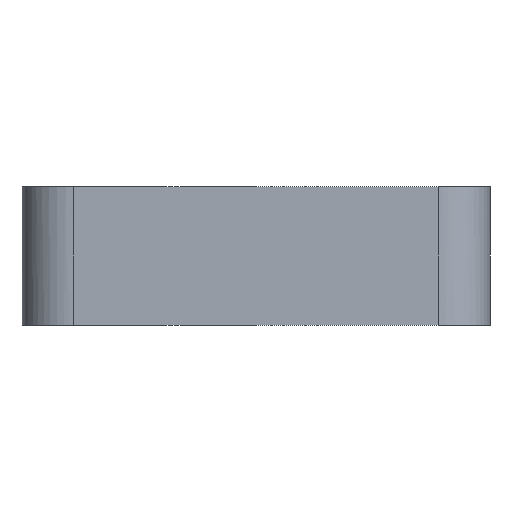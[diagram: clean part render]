
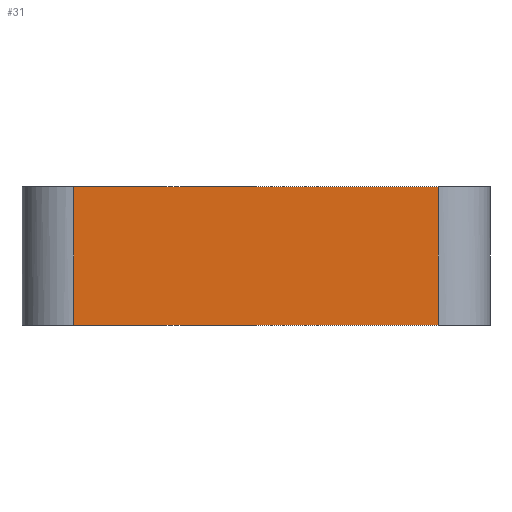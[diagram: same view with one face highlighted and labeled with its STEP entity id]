
A CAD part, left-side view. The second image highlights one B-rep face of the part: STEP entity #31.
In plain terms, the highlighted free-form (B-spline) face has degree [2, 1] with [3, 2] control points.
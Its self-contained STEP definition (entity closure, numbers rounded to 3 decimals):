
#31=ADVANCED_FACE('',(#41),#343,.T.);
#41=FACE_OUTER_BOUND('',#51,.T.);
#51=EDGE_LOOP('',(#82,#83,#84,#85));
#82=ORIENTED_EDGE('',*,*,#276,.T.);
#83=ORIENTED_EDGE('',*,*,#257,.F.);
#84=ORIENTED_EDGE('',*,*,#277,.T.);
#85=ORIENTED_EDGE('',*,*,#274,.F.);
#105=PCURVE('',#336,#153);
#127=PCURVE('',#342,#175);
#130=PCURVE('',#343,#178);
#131=PCURVE('',#343,#179);
#132=PCURVE('',#343,#180);
#133=PCURVE('',#343,#181);
#134=PCURVE('',#334,#182);
#149=PCURVE('',#335,#197);
#153=DEFINITIONAL_REPRESENTATION('',(#201),#617);
#175=DEFINITIONAL_REPRESENTATION('',(#223),#617);
#178=DEFINITIONAL_REPRESENTATION('',(#226),#617);
#179=DEFINITIONAL_REPRESENTATION('',(#227),#617);
#180=DEFINITIONAL_REPRESENTATION('',(#228),#617);
#181=DEFINITIONAL_REPRESENTATION('',(#229),#617);
#182=DEFINITIONAL_REPRESENTATION('',(#302),#617);
#197=DEFINITIONAL_REPRESENTATION('',(#317),#617);
#201=B_SPLINE_CURVE_WITH_KNOTS('',1,(#456,#457),.UNSPECIFIED.,.F.,.F.,(2,
2),(-16.,0.),.UNSPECIFIED.);
#223=B_SPLINE_CURVE_WITH_KNOTS('',1,(#545,#546),.UNSPECIFIED.,.F.,.F.,(2,
2),(0.,16.),.UNSPECIFIED.);
#226=B_SPLINE_CURVE_WITH_KNOTS('',1,(#557,#558),.UNSPECIFIED.,.F.,.F.,(2,
2),(229.699,271.699),.UNSPECIFIED.);
#227=B_SPLINE_CURVE_WITH_KNOTS('',1,(#559,#560),.UNSPECIFIED.,.F.,.F.,(2,
2),(-16.,0.),.UNSPECIFIED.);
#228=B_SPLINE_CURVE_WITH_KNOTS('',1,(#564,#565),.UNSPECIFIED.,.F.,.F.,(2,
2),(-271.699,-229.699),.UNSPECIFIED.);
#229=B_SPLINE_CURVE_WITH_KNOTS('',1,(#566,#567),.UNSPECIFIED.,.F.,.F.,(2,
2),(0.,16.),.UNSPECIFIED.);
#233=SURFACE_CURVE('',#281,(#105,#131),.PCURVE_S1.);
#250=SURFACE_CURVE('',#298,(#127,#133),.PCURVE_S1.);
#252=SURFACE_CURVE('',#300,(#130,#134),.PCURVE_S1.);
#253=SURFACE_CURVE('',#301,(#132,#149),.PCURVE_S1.);
#257=EDGE_CURVE('',#321,#318,#233,.T.);
#274=EDGE_CURVE('',#332,#333,#250,.T.);
#276=EDGE_CURVE('',#332,#318,#252,.T.);
#277=EDGE_CURVE('',#321,#333,#253,.T.);
#281=(
BOUNDED_CURVE()
B_SPLINE_CURVE(1,(#454,#455),.UNSPECIFIED.,.F.,.F.)
B_SPLINE_CURVE_WITH_KNOTS((2,2),(-16.,0.),.UNSPECIFIED.)
CURVE()
GEOMETRIC_REPRESENTATION_ITEM()
RATIONAL_B_SPLINE_CURVE((1.,1.))
REPRESENTATION_ITEM('')
);
#298=(
BOUNDED_CURVE()
B_SPLINE_CURVE(1,(#543,#544),.UNSPECIFIED.,.F.,.F.)
B_SPLINE_CURVE_WITH_KNOTS((2,2),(0.,16.),.UNSPECIFIED.)
CURVE()
GEOMETRIC_REPRESENTATION_ITEM()
RATIONAL_B_SPLINE_CURVE((1.,1.))
REPRESENTATION_ITEM('')
);
#300=(
BOUNDED_CURVE()
B_SPLINE_CURVE(2,(#554,#555,#556),.UNSPECIFIED.,.F.,.F.)
B_SPLINE_CURVE_WITH_KNOTS((3,3),(229.699,271.699),
 .UNSPECIFIED.)
CURVE()
GEOMETRIC_REPRESENTATION_ITEM()
RATIONAL_B_SPLINE_CURVE((1.,1.,1.))
REPRESENTATION_ITEM('')
);
#301=(
BOUNDED_CURVE()
B_SPLINE_CURVE(2,(#561,#562,#563),.UNSPECIFIED.,.F.,.F.)
B_SPLINE_CURVE_WITH_KNOTS((3,3),(-271.699,-229.699),
 .UNSPECIFIED.)
CURVE()
GEOMETRIC_REPRESENTATION_ITEM()
RATIONAL_B_SPLINE_CURVE((1.,1.,1.))
REPRESENTATION_ITEM('')
);
#302=(
BOUNDED_CURVE()
B_SPLINE_CURVE(2,(#568,#569,#570),.UNSPECIFIED.,.F.,.F.)
B_SPLINE_CURVE_WITH_KNOTS((3,3),(229.699,271.699),
 .UNSPECIFIED.)
CURVE()
GEOMETRIC_REPRESENTATION_ITEM()
RATIONAL_B_SPLINE_CURVE((1.,1.,1.))
REPRESENTATION_ITEM('')
);
#317=(
BOUNDED_CURVE()
B_SPLINE_CURVE(2,(#613,#614,#615),.UNSPECIFIED.,.F.,.F.)
B_SPLINE_CURVE_WITH_KNOTS((3,3),(-271.699,-229.699),
 .UNSPECIFIED.)
CURVE()
GEOMETRIC_REPRESENTATION_ITEM()
RATIONAL_B_SPLINE_CURVE((1.,1.,1.))
REPRESENTATION_ITEM('')
);
#318=VERTEX_POINT('',#424);
#321=VERTEX_POINT('',#427);
#332=VERTEX_POINT('',#438);
#333=VERTEX_POINT('',#439);
#334=PLANE('',#364);
#335=PLANE('',#365);
#336=(
BOUNDED_SURFACE()
B_SPLINE_SURFACE(2,1,((#374,#375),(#376,#377),(#378,#379)),.UNSPECIFIED.,
 .F.,.F.,.F.)
B_SPLINE_SURFACE_WITH_KNOTS((3,3),(2,2),(0.,9.425),(0.,16.),
 .UNSPECIFIED.)
GEOMETRIC_REPRESENTATION_ITEM()
RATIONAL_B_SPLINE_SURFACE(((1.,1.),(0.707,0.707),
(1.,1.)))
REPRESENTATION_ITEM('')
SURFACE()
);
#342=(
BOUNDED_SURFACE()
B_SPLINE_SURFACE(2,1,((#410,#411),(#412,#413),(#414,#415)),.UNSPECIFIED.,
 .F.,.F.,.F.)
B_SPLINE_SURFACE_WITH_KNOTS((3,3),(2,2),(220.274,229.699),
(0.,16.),.UNSPECIFIED.)
GEOMETRIC_REPRESENTATION_ITEM()
RATIONAL_B_SPLINE_SURFACE(((1.,1.),(0.707,0.707),
(1.,1.)))
REPRESENTATION_ITEM('')
SURFACE()
);
#343=(
BOUNDED_SURFACE()
B_SPLINE_SURFACE(2,1,((#416,#417),(#418,#419),(#420,#421)),.UNSPECIFIED.,
 .F.,.F.,.F.)
B_SPLINE_SURFACE_WITH_KNOTS((3,3),(2,2),(229.699,271.699),
(0.,16.),.UNSPECIFIED.)
GEOMETRIC_REPRESENTATION_ITEM()
RATIONAL_B_SPLINE_SURFACE(((1.,1.),(1.,1.),(1.,1.)))
REPRESENTATION_ITEM('')
SURFACE()
);
#364=AXIS2_PLACEMENT_3D('',#422,#369,$);
#365=AXIS2_PLACEMENT_3D('',#423,#370,$);
#369=DIRECTION('',(0.,0.,-1.));
#370=DIRECTION('',(0.,0.,1.));
#374=CARTESIAN_POINT('',(445.,342.,-152.));
#375=CARTESIAN_POINT('',(445.,342.,-136.));
#376=CARTESIAN_POINT('',(445.,336.,-152.));
#377=CARTESIAN_POINT('',(445.,336.,-136.));
#378=CARTESIAN_POINT('',(451.,336.,-152.));
#379=CARTESIAN_POINT('',(451.,336.,-136.));
#410=CARTESIAN_POINT('',(451.,390.,-152.));
#411=CARTESIAN_POINT('',(451.,390.,-136.));
#412=CARTESIAN_POINT('',(445.,390.,-152.));
#413=CARTESIAN_POINT('',(445.,390.,-136.));
#414=CARTESIAN_POINT('',(445.,384.,-152.));
#415=CARTESIAN_POINT('',(445.,384.,-136.));
#416=CARTESIAN_POINT('',(445.,384.,-152.));
#417=CARTESIAN_POINT('',(445.,384.,-136.));
#418=CARTESIAN_POINT('',(445.,363.,-152.));
#419=CARTESIAN_POINT('',(445.,363.,-136.));
#420=CARTESIAN_POINT('',(445.,342.,-152.));
#421=CARTESIAN_POINT('',(445.,342.,-136.));
#422=CARTESIAN_POINT('',(434.125,329.25,-152.));
#423=CARTESIAN_POINT('',(434.125,329.25,-136.));
#424=CARTESIAN_POINT('',(445.,342.,-152.));
#427=CARTESIAN_POINT('',(445.,342.,-136.));
#438=CARTESIAN_POINT('',(445.,384.,-152.));
#439=CARTESIAN_POINT('',(445.,384.,-136.));
#454=CARTESIAN_POINT('',(445.,342.,-136.));
#455=CARTESIAN_POINT('',(445.,342.,-152.));
#456=CARTESIAN_POINT('',(0.,16.));
#457=CARTESIAN_POINT('',(0.,0.));
#543=CARTESIAN_POINT('',(445.,384.,-152.));
#544=CARTESIAN_POINT('',(445.,384.,-136.));
#545=CARTESIAN_POINT('',(229.699,0.));
#546=CARTESIAN_POINT('',(229.699,16.));
#554=CARTESIAN_POINT('',(445.,384.,-152.));
#555=CARTESIAN_POINT('',(445.,363.,-152.));
#556=CARTESIAN_POINT('',(445.,342.,-152.));
#557=CARTESIAN_POINT('',(229.699,0.));
#558=CARTESIAN_POINT('',(271.699,0.));
#559=CARTESIAN_POINT('',(271.699,16.));
#560=CARTESIAN_POINT('',(271.699,0.));
#561=CARTESIAN_POINT('',(445.,342.,-136.));
#562=CARTESIAN_POINT('',(445.,363.,-136.));
#563=CARTESIAN_POINT('',(445.,384.,-136.));
#564=CARTESIAN_POINT('',(271.699,16.));
#565=CARTESIAN_POINT('',(229.699,16.));
#566=CARTESIAN_POINT('',(229.699,0.));
#567=CARTESIAN_POINT('',(229.699,16.));
#568=CARTESIAN_POINT('',(42.,0.));
#569=CARTESIAN_POINT('',(21.,0.));
#570=CARTESIAN_POINT('',(0.,0.));
#613=CARTESIAN_POINT('',(0.,0.));
#614=CARTESIAN_POINT('',(0.,21.));
#615=CARTESIAN_POINT('',(0.,42.));
#617=(
GEOMETRIC_REPRESENTATION_CONTEXT(2)
PARAMETRIC_REPRESENTATION_CONTEXT()
REPRESENTATION_CONTEXT('pspace','')
);
